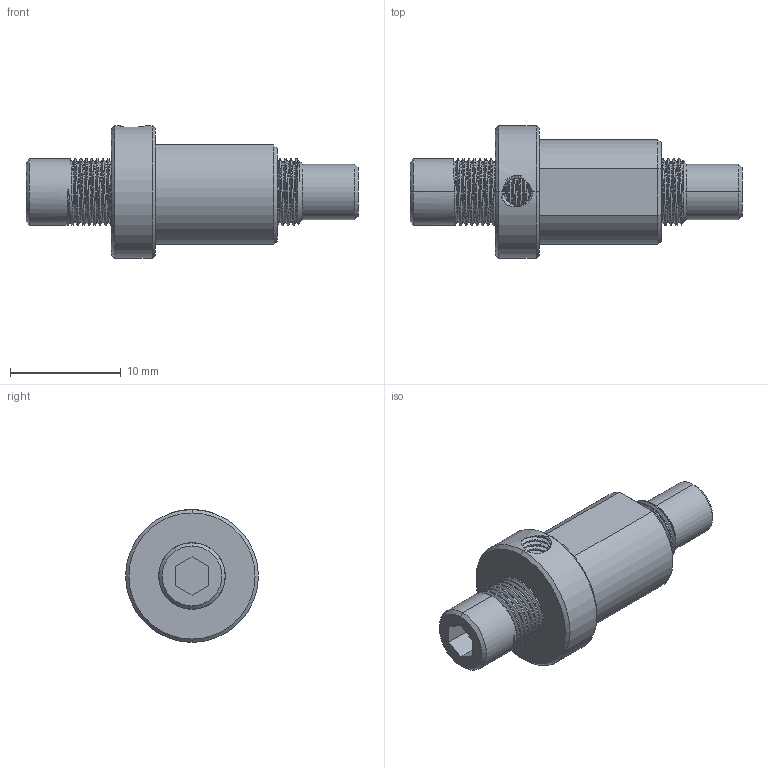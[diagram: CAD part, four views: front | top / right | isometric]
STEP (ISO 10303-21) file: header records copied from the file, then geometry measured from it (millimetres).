
FILE_DESCRIPTION((''),'2;1');
FILE_NAME('M605-L30-A_ASM','2024-11-05T17:36:39',('R&D'),(''),'CREO PARAMETRIC BY PTC INC, 2021063','CREO PARAMETRIC BY PTC INC, 2021063','');
FILE_SCHEMA(('CONFIG_CONTROL_DESIGN'));
Length unit declared in the file: millimetre
Products named in the file (3): M605-L30-A; M605-L-A; M605-L30-A_ASM
Assembly tree (2 placements, depth 2):
  M605-L30-A_ASM
    M605-L30-A
    M605-L-A
Bounding box: 30 x 12 x 12 mm (x, y, z)
Volume: 1520.6 mm3; surface area: 1933.5 mm2
Topology: 2 solids, 2 shells, 293 faces, 808 edges, 519 vertices
Faces by surface type: cylinder 160, bspline 108, plane 14, cone 11
Entity records: 27030 total; most frequent: CARTESIAN_POINT 20887, ORIENTED_EDGE 1616, EDGE_CURVE 808, DIRECTION 673, B_SPLINE_CURVE_WITH_KNOTS 539, VERTEX_POINT 519, EDGE_LOOP 297, FACE_OUTER_BOUND 293
